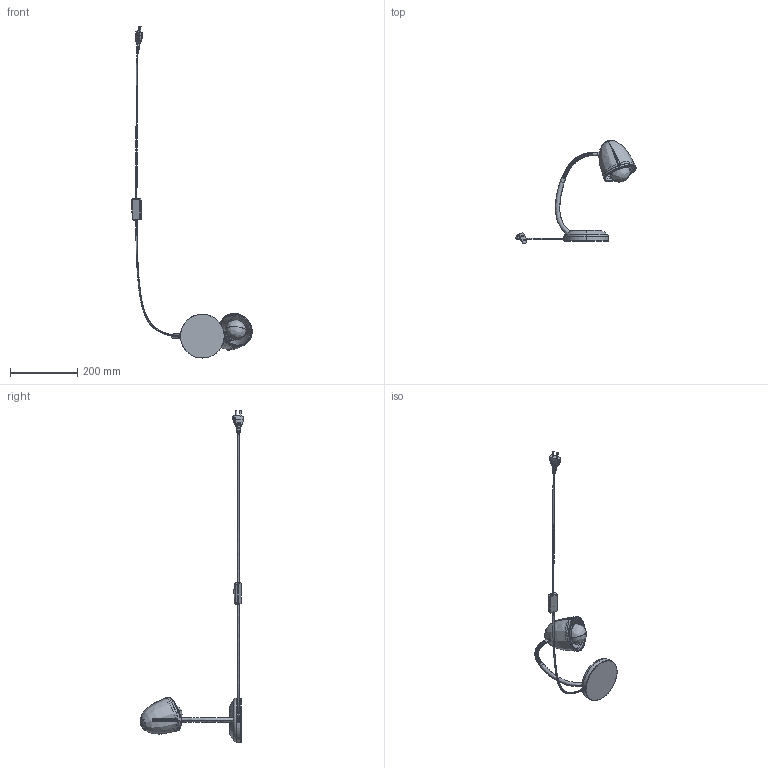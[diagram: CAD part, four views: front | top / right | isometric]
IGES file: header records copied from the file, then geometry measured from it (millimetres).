
Start section: SolidWorks IGES file using analytic representation for surfaces
Global section: file name: Z:\Modele 3D_WWW\_KOLEKCJE_WWW\POCATELLO-5798-5797-5794-5796-5795-5828\POCATELLO-5798-5797-5794-5796-5795-5828.IGS; native system: SolidWorks 2021; preprocessor: SolidWorks 2021; author: gabriela.tworek; date: 210602.160357; units: millimetre
Bounding box: 357.34 x 308.17 x 985.79 mm (x, y, z)
Surface area: 198826.6 mm2 (no closed solid volume)
Topology: 0 solids, 0 shells, 642 faces, 11795 edges, 11769 vertices
Faces by surface type: bspline 472, revolution 170
